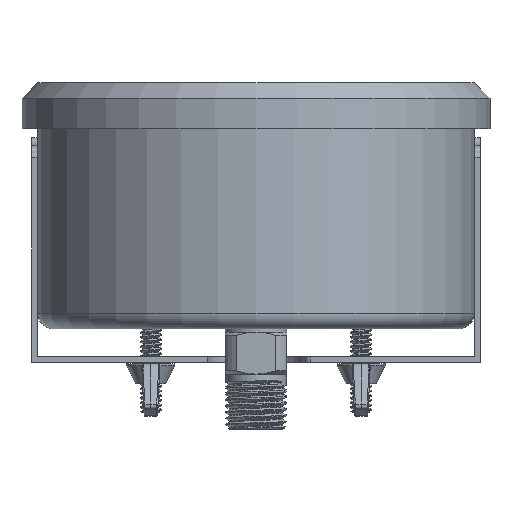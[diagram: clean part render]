
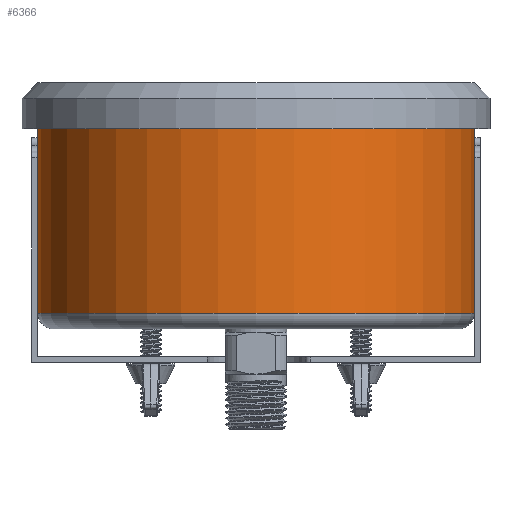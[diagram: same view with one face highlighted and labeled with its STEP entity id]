
A CAD part, front view. The second image highlights one B-rep face of the part: STEP entity #6366.
In plain terms, the highlighted cylindrical face has radius 49.4 mm (diameter 98.8 mm), a full revolution.
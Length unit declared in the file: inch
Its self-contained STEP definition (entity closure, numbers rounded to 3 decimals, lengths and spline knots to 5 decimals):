
#774=FACE_OUTER_BOUND('',#1160,.T.);
#1160=EDGE_LOOP('',(#4401,#4402,#4403,#4404));
#1584=LINE('',#8968,#2118);
#2118=VECTOR('',#7440,1.94488);
#2655=CIRCLE('',#6890,1.94488);
#2658=CIRCLE('',#6897,1.94488);
#2814=VERTEX_POINT('',#8951);
#2817=VERTEX_POINT('',#8962);
#3436=EDGE_CURVE('',#2814,#2814,#2655,.T.);
#3440=EDGE_CURVE('',#2817,#2817,#2658,.T.);
#3443=EDGE_CURVE('',#2814,#2817,#1584,.T.);
#4401=ORIENTED_EDGE('',*,*,#3436,.F.);
#4402=ORIENTED_EDGE('',*,*,#3443,.T.);
#4403=ORIENTED_EDGE('',*,*,#3440,.T.);
#4404=ORIENTED_EDGE('',*,*,#3443,.F.);
#6264=CYLINDRICAL_SURFACE('',#6900,1.94488);
#6366=ADVANCED_FACE('',(#774),#6264,.T.);
#6890=AXIS2_PLACEMENT_3D('',#8952,#7417,#7418);
#6897=AXIS2_PLACEMENT_3D('',#8963,#7432,#7433);
#6900=AXIS2_PLACEMENT_3D('',#8967,#7438,#7439);
#7417=DIRECTION('center_axis',(0.,0.,1.));
#7418=DIRECTION('ref_axis',(1.,0.,0.));
#7432=DIRECTION('center_axis',(0.,0.,1.));
#7433=DIRECTION('ref_axis',(0.,-1.,0.));
#7438=DIRECTION('center_axis',(0.,0.,1.));
#7439=DIRECTION('ref_axis',(0.,-1.,0.));
#7440=DIRECTION('',(0.,0.,-1.));
#8951=CARTESIAN_POINT('',(0.,1.94488,2.02997));
#8952=CARTESIAN_POINT('Origin',(0.,0.,2.02997));
#8962=CARTESIAN_POINT('',(0.,1.94488,0.1378));
#8963=CARTESIAN_POINT('Origin',(0.,0.,0.1378));
#8967=CARTESIAN_POINT('Origin',(0.,0.,0.));
#8968=CARTESIAN_POINT('',(0.,1.94488,0.));
